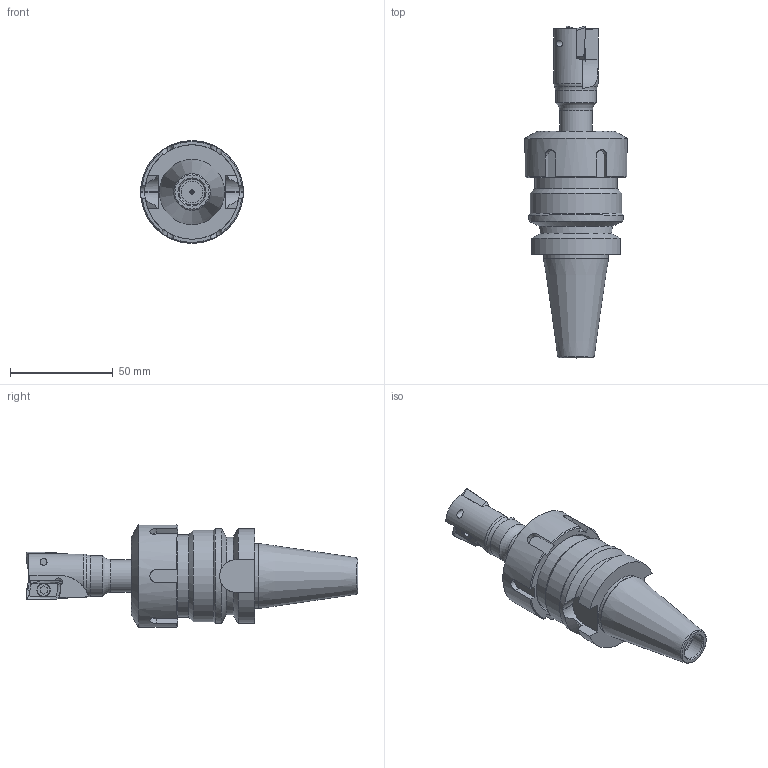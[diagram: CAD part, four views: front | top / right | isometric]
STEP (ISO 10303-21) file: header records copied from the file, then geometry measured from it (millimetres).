
FILE_DESCRIPTION(/* description */ ('STEP AP214'),/* implementation_level */ '2;1');
FILE_NAME(/* name */ '609492039ecec20f3f078a25',/* time_stamp */ '2021-05-07T01:04:05+00:00',/* author */ (''),/* organization */ (''),/* preprocessor_version */ 'ST-DEVELOPER v18.1',/* originating_system */ ' ',/* authorisation */ ' ');
FILE_SCHEMA (('AUTOMOTIVE_DESIGN {1 0 10303 214 3 1 1}'));
Length unit declared in the file: metre
Products named in the file (8): BT30-ER32 Collet Holder with Ø25 Facemill; 25mm 2F Insert Endmill <1>; APMT1604 Insert; 25mm 2 Flute Insert Endmill Holder; M4x8 Modified Caphead Screw 304SS; ER32 Collet Nut; ER32 Collet - 15-16mm; BT30-ER32-60 Collet Holder Body
Assembly tree (9 placements, depth 3):
  BT30-ER32 Collet Holder with Ø25 Facemill
    25mm 2F Insert Endmill <1>
      APMT1604 Insert  x2
      25mm 2 Flute Insert Endmill Holder
      M4x8 Modified Caphead Screw 304SS  x2
    ER32 Collet Nut
    ER32 Collet - 15-16mm
    BT30-ER32-60 Collet Holder Body
Bounding box: 50 x 161.72 x 50 mm (x, y, z)
Volume: 114675.6 mm3; surface area: 48760.4 mm2
Topology: 8 solids, 8 shells, 362 faces, 1001 edges, 658 vertices
Faces by surface type: plane 185, cylinder 71, cone 52, bspline 46, torus 8
Full cylindrical faces by diameter (mm): 1 x1, 3 x1, 3.3 x2, 3.5 x2, 4 x4, 4.5 x2, 6 x2, 7 x2, 10.5 x1, 12.5 x1, 15.9 x1, 16 x2, 20 x1, 25 x1, 29.8 x1, 31.25 x1, 40 x2, 42 x1, 44.45 x1, 46 x1, 50 x1
Entity records: 10511 total; most frequent: CARTESIAN_POINT 2595, ORIENTED_EDGE 1604, DIRECTION 1504, EDGE_CURVE 802, AXIS2_PLACEMENT_3D 564, VERTEX_POINT 561, FACE_BOUND 385, EDGE_LOOP 381
